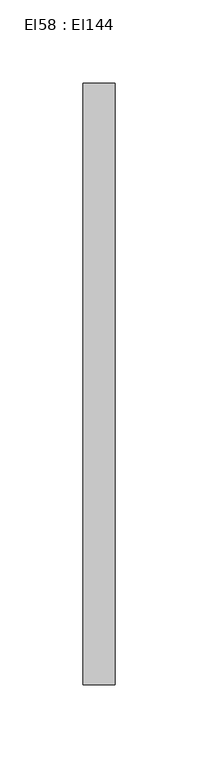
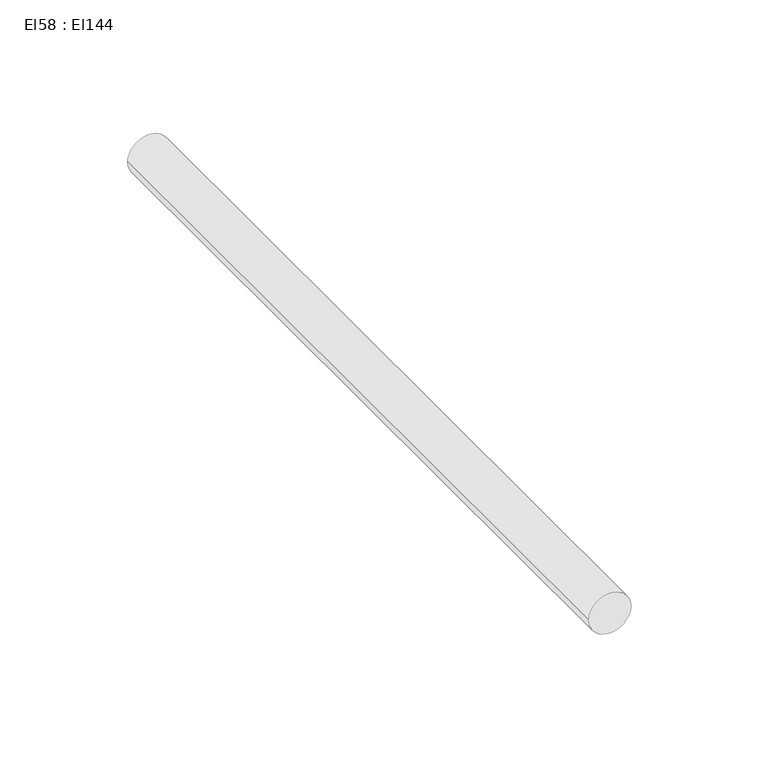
"""IFC4 building model written with IfcOpenShell, lengths in millimetres: cable carrier segment geometry, El58 : El144."""

from ifc_helpers import new_model, si_unit, point, frame, frame_2d, origin, place, context, project, spatial, circle_curve, trimmed, segment, composite_curve, outline, extrude, source, transform, mapped, element, save


def el58_el144_c64af32f(model_context):
    return source(origin(), model_context, "Body", "SweptSolid", [
        extrude(outline(composite_curve([segment(trimmed(circle_curve(frame_2d((2700.0, 22494.4746511)), 9.5), [point((2700.0, 22484.9746511))], [point((2700.0, 22503.9746511))], False, "CARTESIAN"), True, "CONTINUOUS"), segment(trimmed(circle_curve(frame_2d((2700.0, 22494.4746511)), 9.5), [point((2700.0, 22503.9746511))], [point((2700.0, 22484.9746511))], False, "CARTESIAN"), True, "CONTINUOUS")], self_intersect=False)), frame((0.0, 891.2281745, 0.0), z_axis=(0.0, 1.0, 0.0), x_axis=(0.0, 0.0, 1.0)), (0.0, 0.0, 1.0), 360.668),
    ])


if __name__ == "__main__":
    model = new_model("IFC4")
    model_context = context("Model", 3, world=origin())
    ifc_project = project(units=[si_unit("LENGTHUNIT", "METRE", prefix="MILLI")], contexts=[model_context])
    site = spatial("IfcSite", under=ifc_project)
    building = spatial("IfcBuilding", under=site)
    placement = place(None, origin())
    el58_el144_shape = el58_el144_c64af32f(model_context)
    element("IfcCableCarrierSegment", 1, ObjectType="El58 : El144", at=placement, inside=building, context=model_context, shape_type="MappedRepresentation", body=[
        mapped(el58_el144_shape, transform((0.0, 0.0, 0.0), x_axis=(1.0, 0.0, 0.0), y_axis=(0.0, 1.0, 0.0), z_axis=(0.0, 0.0, 1.0))),
    ])
    save(model, "model.ifc")
